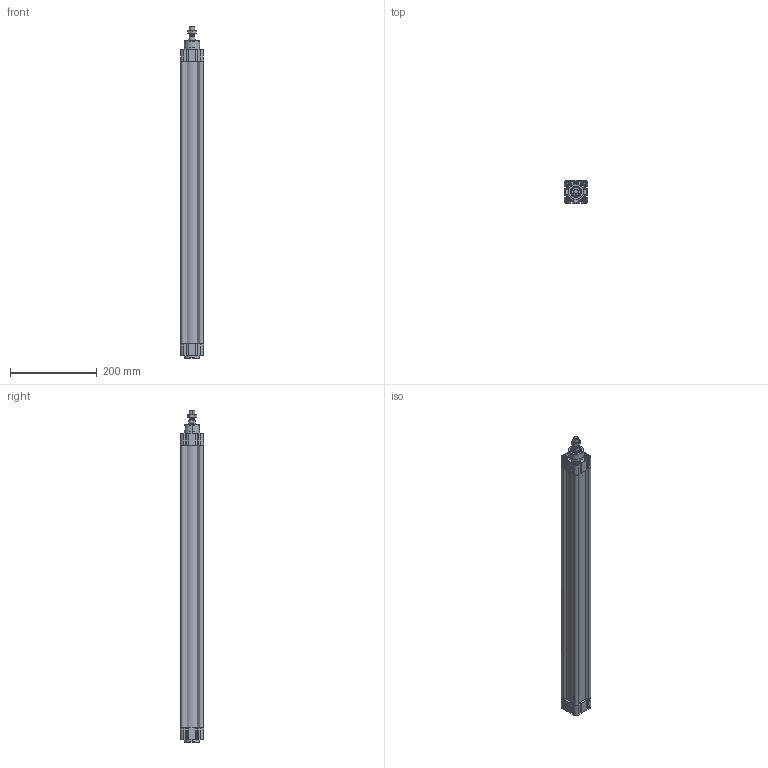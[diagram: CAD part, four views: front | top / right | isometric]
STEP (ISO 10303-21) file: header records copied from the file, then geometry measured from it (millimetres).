
FILE_DESCRIPTION (( 'STEP AP214' ), '1' );
FILE_NAME ('E11M20400600.STEP', '2021-10-25T15:59:27', ( '' ), ( '' ), 'SwSTEP 2.0', 'SolidWorks 2016', '' );
FILE_SCHEMA (( 'AUTOMOTIVE_DESIGN' ));
Length unit declared in the file: millimetre
Products named in the file (7): E11M20400600; TA Ø40 ISO 15552 WEB; Pistone Ø40 ISO 15552; TP Ø40 ISO 15552 WEB; 21.751.0; 21.B01.0000_21.B01.0600; 000.531.7_000.531.0600
Assembly tree (6 placements, depth 2):
  E11M20400600
    TP Ø40 ISO 15552 WEB
    TA Ø40 ISO 15552 WEB
    000.531.7_000.531.0600
    Pistone Ø40 ISO 15552
    21.B01.0000_21.B01.0600
    21.751.0
Bounding box: 53.07 x 53.09 x 764 mm (x, y, z)
Volume: 721129.6 mm3; surface area: 438901.4 mm2
Topology: 17 solids, 17 shells, 1452 faces, 3682 edges, 2328 vertices
Faces by surface type: plane 692, cylinder 467, cone 212, torus 65, bspline 16
Entity records: 57919 total; most frequent: CARTESIAN_POINT 8280, DIRECTION 7835, ORIENTED_EDGE 7364, EDGE_CURVE 3682, AXIS2_PLACEMENT_3D 2841, VERTEX_POINT 2328, VECTOR 2153, LINE 2153
